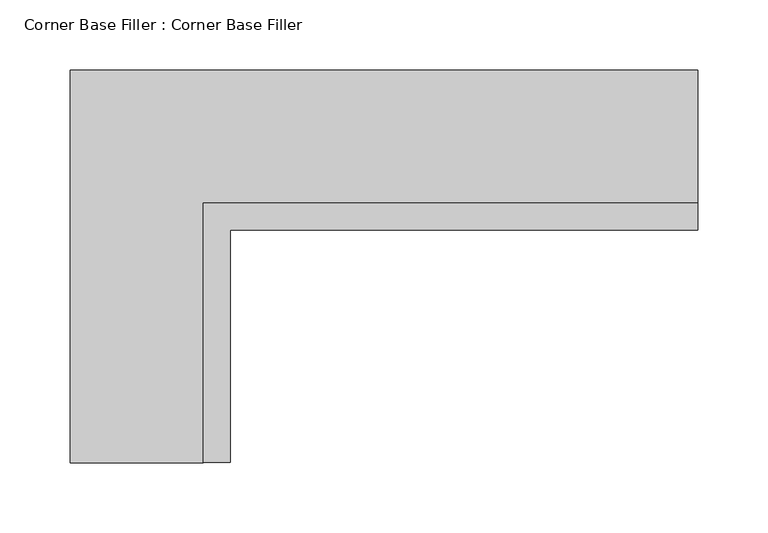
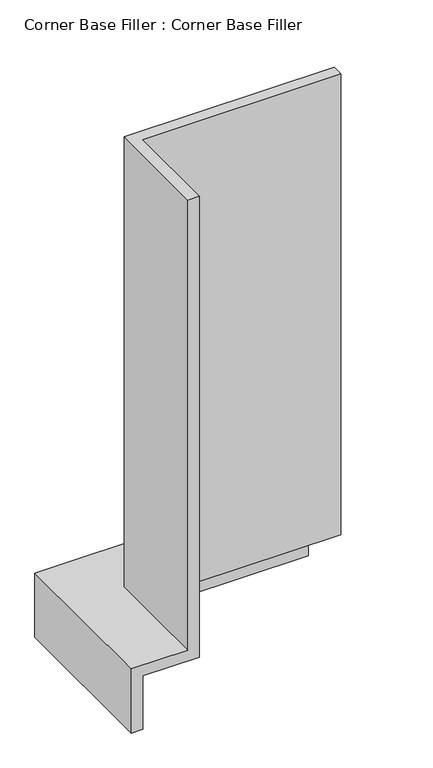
"""IFC4 building model written with IfcOpenShell, lengths in millimetres: furniture geometry, Corner Base Filler : Corner Base Filler."""

from ifc_helpers import new_model, si_unit, origin, place, context, project, spatial, faceted_brep, source, transform, mapped, element, save


def corner_base_filler_corner_base_filler_53cc3308(model_context):
    return source(origin(), model_context, "Body", "Brep", [
        faceted_brep([(19.05, 0.0, 95.25), (19.05, 0.0, 914.4), (0.0, 0.0, 914.4), (0.0, 0.0, 114.3), (-95.25, 0.0, 114.3), (-95.25, 0.0, 0.0), (-76.2, 0.0, 0.0), (-76.2, 0.0, 95.25), (19.05, 166.12858, 95.25), (19.05, 166.12858, 914.4), (353.06, 166.12858, 914.4), (353.06, 185.17858, 914.4), (0.0, 185.17858, 914.4), (0.0, 185.17858, 114.3), (353.06, 185.17858, 114.3), (353.06, 280.42858, 114.3), (-95.25, 280.42858, 114.3), (-95.25, 280.42858, 0.0), (353.06, 280.42858, 0.0), (353.06, 261.37858, 0.0), (-76.2, 261.37858, 0.0), (-76.2, 261.37858, 95.25), (353.06, 261.37858, 95.25), (353.06, 166.12858, 95.25)], [[[0, 1, 2, 3, 4, 5, 6, 7]], [[1, 0, 8, 9]], [[2, 1, 9, 10, 11, 12]], [[3, 2, 12, 13]], [[4, 3, 13, 14, 15, 16]], [[5, 4, 16, 17]], [[6, 5, 17, 18, 19, 20]], [[7, 6, 20, 21]], [[0, 7, 21, 22, 23, 8]], [[23, 22, 19, 18, 15, 14, 11, 10]], [[9, 8, 23, 10]], [[13, 12, 11, 14]], [[17, 16, 15, 18]], [[21, 20, 19, 22]]]),
    ])


if __name__ == "__main__":
    model = new_model("IFC4")
    model_context = context("Model", 3, world=origin())
    ifc_project = project(units=[si_unit("LENGTHUNIT", "METRE", prefix="MILLI")], contexts=[model_context])
    site = spatial("IfcSite", under=ifc_project)
    building = spatial("IfcBuilding", under=site)
    placement = place(None, origin())
    corner_base_filler_corner_base_filler_shape = corner_base_filler_corner_base_filler_53cc3308(model_context)
    element("IfcFurniture", 1, ObjectType="Corner Base Filler : Corner Base Filler", at=placement, inside=building, context=model_context, shape_type="MappedRepresentation", body=[
        mapped(corner_base_filler_corner_base_filler_shape, transform((0.0, 0.0, 0.0), x_axis=(1.0, 0.0, 0.0), y_axis=(0.0, 1.0, 0.0), z_axis=(0.0, 0.0, 1.0))),
    ])
    save(model, "model.ifc")
